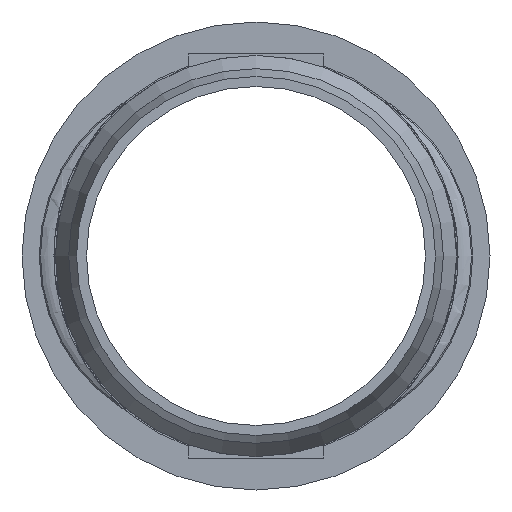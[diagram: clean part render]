
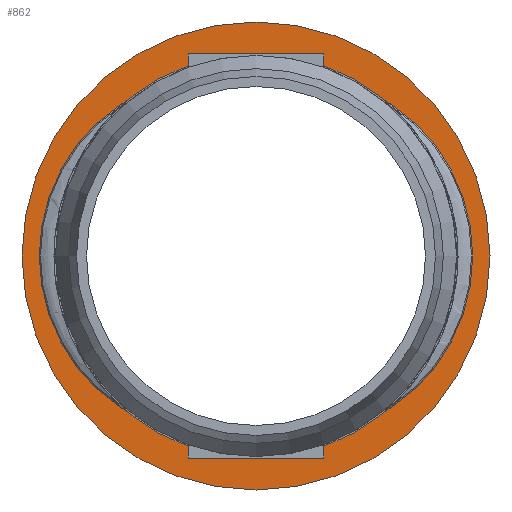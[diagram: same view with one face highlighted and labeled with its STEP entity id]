
A CAD part, left-side view. The second image highlights one B-rep face of the part: STEP entity #862.
In plain terms, the highlighted planar face has unit normal (-1, 0, 0).
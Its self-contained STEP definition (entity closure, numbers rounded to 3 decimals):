
#89=LINE($,#1244,#117);
#93=LINE($,#1256,#121);
#97=LINE($,#1262,#125);
#98=LINE($,#1269,#126);
#99=LINE($,#1271,#127);
#100=LINE($,#1273,#128);
#117=VECTOR($,#1027,1.602);
#121=VECTOR($,#1037,1.602);
#125=VECTOR($,#1043,18.5);
#126=VECTOR($,#1050,1.602);
#127=VECTOR($,#1051,18.5);
#128=VECTOR($,#1052,1.602);
#155=PLANE($,#923);
#170=FACE_BOUND($,#255,.T.);
#202=FACE_OUTER_BOUND($,#254,.T.);
#254=EDGE_LOOP($,(#592));
#255=EDGE_LOOP($,(#593,#594,#595,#596,#597,#598,#599,#600));
#327=CIRCLE($,#924,31.85);
#328=CIRCLE($,#925,27.5);
#329=CIRCLE($,#926,27.5);
#367=VERTEX_POINT($,#1234);
#371=VERTEX_POINT($,#1242);
#374=VERTEX_POINT($,#1252);
#376=VERTEX_POINT($,#1255);
#378=VERTEX_POINT($,#1264);
#379=VERTEX_POINT($,#1266);
#380=VERTEX_POINT($,#1268);
#381=VERTEX_POINT($,#1270);
#382=VERTEX_POINT($,#1272);
#459=EDGE_CURVE($,#367,#371,#89,.T.);
#464=EDGE_CURVE($,#376,#374,#93,.T.);
#468=EDGE_CURVE($,#371,#376,#97,.T.);
#469=EDGE_CURVE($,#378,#378,#327,.T.);
#470=EDGE_CURVE($,#374,#379,#328,.T.);
#471=EDGE_CURVE($,#379,#380,#98,.T.);
#472=EDGE_CURVE($,#380,#381,#99,.T.);
#473=EDGE_CURVE($,#381,#382,#100,.T.);
#474=EDGE_CURVE($,#382,#367,#329,.T.);
#592=ORIENTED_EDGE($,*,*,#469,.F.);
#593=ORIENTED_EDGE($,*,*,#459,.T.);
#594=ORIENTED_EDGE($,*,*,#468,.T.);
#595=ORIENTED_EDGE($,*,*,#464,.T.);
#596=ORIENTED_EDGE($,*,*,#470,.T.);
#597=ORIENTED_EDGE($,*,*,#471,.T.);
#598=ORIENTED_EDGE($,*,*,#472,.T.);
#599=ORIENTED_EDGE($,*,*,#473,.T.);
#600=ORIENTED_EDGE($,*,*,#474,.T.);
#862=ADVANCED_FACE($,(#202,#170),#155,.T.);
#923=AXIS2_PLACEMENT_3D($,#1263,#1044,#1045);
#924=AXIS2_PLACEMENT_3D($,#1265,#1046,#1047);
#925=AXIS2_PLACEMENT_3D($,#1267,#1048,#1049);
#926=AXIS2_PLACEMENT_3D($,#1274,#1053,#1054);
#1027=DIRECTION($,(0.,0.,1.));
#1037=DIRECTION($,(0.,0.,-1.));
#1043=DIRECTION($,(0.,-1.,0.));
#1044=DIRECTION('center_axis',(-1.,0.,0.));
#1045=DIRECTION('ref_axis',(0.,0.,1.));
#1046=DIRECTION('center_axis',(1.,0.,0.));
#1047=DIRECTION('ref_axis',(0.,1.,0.));
#1048=DIRECTION('center_axis',(1.,0.,0.));
#1049=DIRECTION('ref_axis',(0.,1.,0.));
#1050=DIRECTION($,(0.,0.,-1.));
#1051=DIRECTION($,(0.,1.,0.));
#1052=DIRECTION($,(0.,0.,1.));
#1053=DIRECTION('center_axis',(1.,0.,0.));
#1054=DIRECTION('ref_axis',(0.,1.,0.));
#1234=CARTESIAN_POINT('',(164.9,9.25,25.898));
#1242=CARTESIAN_POINT('',(164.9,9.25,27.5));
#1244=CARTESIAN_POINT($,(164.9,9.25,13.75));
#1252=CARTESIAN_POINT('',(164.9,-9.25,25.898));
#1255=CARTESIAN_POINT('',(164.9,-9.25,27.5));
#1256=CARTESIAN_POINT($,(164.9,-9.25,13.75));
#1262=CARTESIAN_POINT($,(164.9,14.838,27.5));
#1263=CARTESIAN_POINT('Origin',(164.9,29.675,0.));
#1264=CARTESIAN_POINT('',(164.9,31.85,0.));
#1265=CARTESIAN_POINT('Origin',(164.9,0.,0.));
#1266=CARTESIAN_POINT('',(164.9,-9.25,-25.898));
#1267=CARTESIAN_POINT('Origin',(164.9,0.,0.));
#1268=CARTESIAN_POINT('',(164.9,-9.25,-27.5));
#1269=CARTESIAN_POINT($,(164.9,-9.25,-13.75));
#1270=CARTESIAN_POINT('',(164.9,9.25,-27.5));
#1271=CARTESIAN_POINT($,(164.9,14.838,-27.5));
#1272=CARTESIAN_POINT('',(164.9,9.25,-25.898));
#1273=CARTESIAN_POINT($,(164.9,9.25,-13.75));
#1274=CARTESIAN_POINT('Origin',(164.9,0.,0.));
